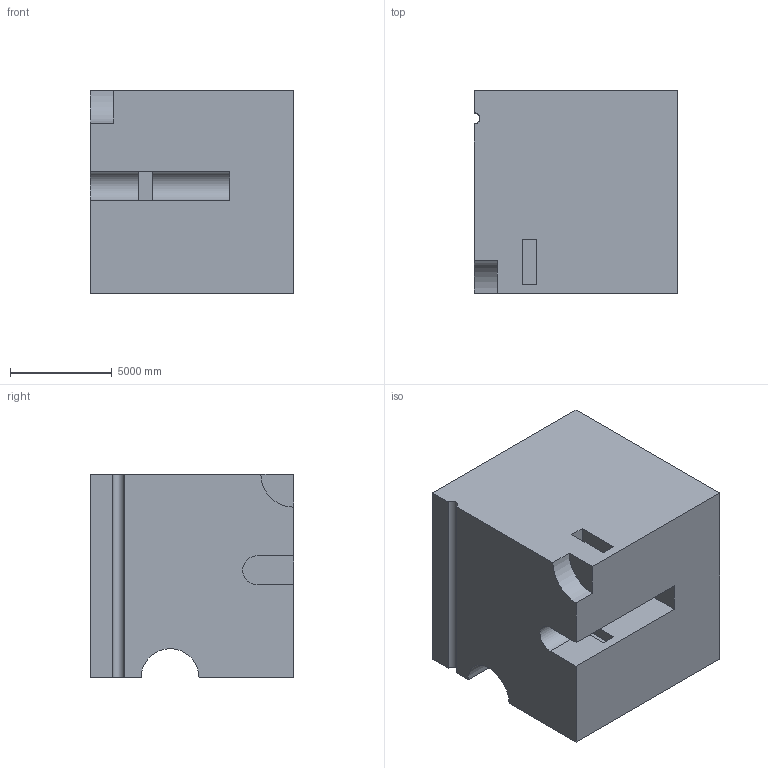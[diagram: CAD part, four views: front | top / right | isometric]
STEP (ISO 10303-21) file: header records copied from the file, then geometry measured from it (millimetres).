
FILE_DESCRIPTION (( 'STEP AP203' ), '1' );
FILE_NAME ('59.STEP', '2022-09-02T13:54:47', ( 'user' ), ( '' ), 'SwSTEP 2.0', 'SolidWorks 2021', '' );
FILE_SCHEMA (( 'CONFIG_CONTROL_DESIGN' ));
Length unit declared in the file: centimetre
Products named in the file (1): 59
Bounding box: 10000 x 10000 x 10000 mm (x, y, z)
Volume: 926544757991.4 mm3; surface area: 685563010 mm2
Topology: 1 solids, 1 shells, 29 faces, 81 edges, 54 vertices
Faces by surface type: plane 23, cylinder 6
Entity records: 1008 total; most frequent: CARTESIAN_POINT 165, ORIENTED_EDGE 162, DIRECTION 153, EDGE_CURVE 81, LINE 69, VECTOR 69, VERTEX_POINT 54, AXIS2_PLACEMENT_3D 42
